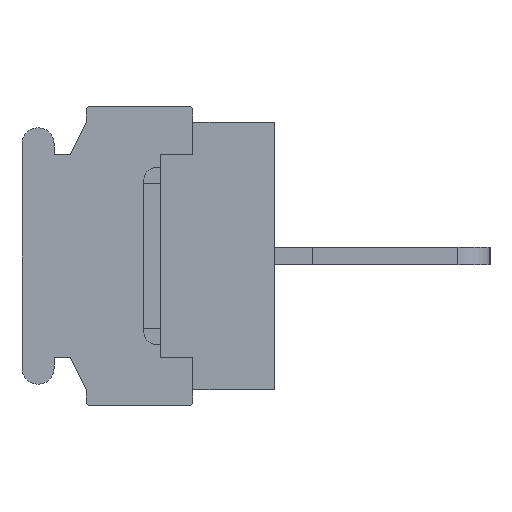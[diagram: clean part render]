
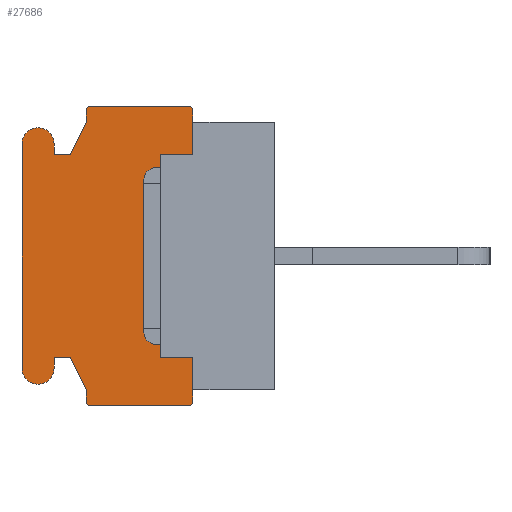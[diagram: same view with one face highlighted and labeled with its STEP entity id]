
A CAD part, left-side view. The second image highlights one B-rep face of the part: STEP entity #27686.
In plain terms, the highlighted planar face has unit normal (-1, 0, 0).
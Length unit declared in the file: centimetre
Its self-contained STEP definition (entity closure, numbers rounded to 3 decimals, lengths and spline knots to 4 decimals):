
#1582=PLANE('',#45095);
#2331=VECTOR('',#29077,1.);
#4234=VECTOR('',#33197,1.);
#4235=VECTOR('',#33198,1.);
#4236=VECTOR('',#33201,1.);
#4237=VECTOR('',#33204,1.);
#4238=VECTOR('',#33205,1.);
#4239=VECTOR('',#33206,1.);
#4240=VECTOR('',#33207,1.);
#4241=VECTOR('',#33210,1.);
#4242=VECTOR('',#33213,1.);
#4243=VECTOR('',#33214,1.);
#4244=VECTOR('',#33215,1.);
#4245=VECTOR('',#33216,1.);
#4246=VECTOR('',#33219,1.);
#4247=VECTOR('',#33222,1.);
#4248=VECTOR('',#33223,1.);
#4249=VECTOR('',#33224,1.);
#4250=VECTOR('',#33225,1.);
#5279=LINE('',#35961,#2331);
#7182=LINE('',#41722,#4234);
#7183=LINE('',#41724,#4235);
#7184=LINE('',#41728,#4236);
#7185=LINE('',#41732,#4237);
#7186=LINE('',#41734,#4238);
#7187=LINE('',#41736,#4239);
#7188=LINE('',#41738,#4240);
#7189=LINE('',#41742,#4241);
#7190=LINE('',#41746,#4242);
#7191=LINE('',#41748,#4243);
#7192=LINE('',#41750,#4244);
#7193=LINE('',#41752,#4245);
#7194=LINE('',#41756,#4246);
#7195=LINE('',#41760,#4247);
#7196=LINE('',#41761,#4248);
#7197=LINE('',#41763,#4249);
#7198=LINE('',#41764,#4250);
#8166=VERTEX_POINT('',#35962);
#8167=VERTEX_POINT('',#35963);
#8278=VERTEX_POINT('',#36269);
#8331=VERTEX_POINT('',#36380);
#9948=VERTEX_POINT('',#41723);
#9949=VERTEX_POINT('',#41725);
#9950=VERTEX_POINT('',#41727);
#9951=VERTEX_POINT('',#41729);
#9952=VERTEX_POINT('',#41731);
#9953=VERTEX_POINT('',#41733);
#9954=VERTEX_POINT('',#41735);
#9955=VERTEX_POINT('',#41737);
#9956=VERTEX_POINT('',#41739);
#9957=VERTEX_POINT('',#41741);
#9958=VERTEX_POINT('',#41743);
#9959=VERTEX_POINT('',#41745);
#9960=VERTEX_POINT('',#41747);
#9961=VERTEX_POINT('',#41749);
#9962=VERTEX_POINT('',#41751);
#9963=VERTEX_POINT('',#41753);
#9964=VERTEX_POINT('',#41755);
#9965=VERTEX_POINT('',#41757);
#9966=VERTEX_POINT('',#41759);
#9967=VERTEX_POINT('',#41762);
#10876=CIRCLE('',#45096,0.02);
#10877=CIRCLE('',#45097,0.02);
#10878=CIRCLE('',#45098,0.075);
#10879=CIRCLE('',#45099,0.075);
#10880=CIRCLE('',#45100,0.02);
#10881=CIRCLE('',#45101,0.02);
#11684=EDGE_CURVE('',#8166,#8167,#5279,.T.);
#14375=EDGE_CURVE('',#9948,#8278,#7182,.T.);
#14376=EDGE_CURVE('',#9949,#8278,#7183,.T.);
#14377=EDGE_CURVE('',#9950,#9949,#10876,.T.);
#14378=EDGE_CURVE('',#9951,#9950,#7184,.T.);
#14379=EDGE_CURVE('',#9952,#9951,#10877,.T.);
#14380=EDGE_CURVE('',#9953,#9952,#7185,.T.);
#14381=EDGE_CURVE('',#9954,#9953,#7186,.T.);
#14382=EDGE_CURVE('',#9955,#9954,#7187,.T.);
#14383=EDGE_CURVE('',#9956,#9955,#7188,.T.);
#14384=EDGE_CURVE('',#9957,#9956,#10878,.T.);
#14385=EDGE_CURVE('',#9958,#9957,#7189,.T.);
#14386=EDGE_CURVE('',#9959,#9958,#10879,.T.);
#14387=EDGE_CURVE('',#9960,#9959,#7190,.T.);
#14388=EDGE_CURVE('',#9961,#9960,#7191,.T.);
#14389=EDGE_CURVE('',#9962,#9961,#7192,.T.);
#14390=EDGE_CURVE('',#9963,#9962,#7193,.T.);
#14391=EDGE_CURVE('',#9964,#9963,#10880,.T.);
#14392=EDGE_CURVE('',#9965,#9964,#7194,.T.);
#14393=EDGE_CURVE('',#9966,#9965,#10881,.T.);
#14394=EDGE_CURVE('',#8331,#9966,#7195,.T.);
#14395=EDGE_CURVE('',#8331,#9967,#7196,.T.);
#14396=EDGE_CURVE('',#9967,#8166,#7197,.T.);
#14397=EDGE_CURVE('',#8167,#9948,#7198,.T.);
#21881=ORIENTED_EDGE('',*,*,#14375,.T.);
#21882=ORIENTED_EDGE('',*,*,#14376,.F.);
#21883=ORIENTED_EDGE('',*,*,#14377,.F.);
#21884=ORIENTED_EDGE('',*,*,#14378,.F.);
#21885=ORIENTED_EDGE('',*,*,#14379,.F.);
#21886=ORIENTED_EDGE('',*,*,#14380,.F.);
#21887=ORIENTED_EDGE('',*,*,#14381,.F.);
#21888=ORIENTED_EDGE('',*,*,#14382,.F.);
#21889=ORIENTED_EDGE('',*,*,#14383,.F.);
#21890=ORIENTED_EDGE('',*,*,#14384,.F.);
#21891=ORIENTED_EDGE('',*,*,#14385,.F.);
#21892=ORIENTED_EDGE('',*,*,#14386,.F.);
#21893=ORIENTED_EDGE('',*,*,#14387,.F.);
#21894=ORIENTED_EDGE('',*,*,#14388,.F.);
#21895=ORIENTED_EDGE('',*,*,#14389,.F.);
#21896=ORIENTED_EDGE('',*,*,#14390,.F.);
#21897=ORIENTED_EDGE('',*,*,#14391,.F.);
#21898=ORIENTED_EDGE('',*,*,#14392,.F.);
#21899=ORIENTED_EDGE('',*,*,#14393,.F.);
#21900=ORIENTED_EDGE('',*,*,#14394,.F.);
#21901=ORIENTED_EDGE('',*,*,#14395,.T.);
#21902=ORIENTED_EDGE('',*,*,#14396,.T.);
#21903=ORIENTED_EDGE('',*,*,#11684,.T.);
#21904=ORIENTED_EDGE('',*,*,#14397,.T.);
#24484=EDGE_LOOP('',(#21881,#21882,#21883,#21884,#21885,#21886,#21887,#21888,
#21889,#21890,#21891,#21892,#21893,#21894,#21895,#21896,#21897,#21898,#21899,
#21900,#21901,#21902,#21903,#21904));
#26162=FACE_BOUND('',#24484,.T.);
#27686=ADVANCED_FACE('',(#26162),#1582,.F.);
#29077=DIRECTION('',(0.,0.,1.));
#33196=DIRECTION('',(1.,0.,0.));
#33197=DIRECTION('',(0.,0.,1.));
#33198=DIRECTION('',(0.,0.,-1.));
#33199=DIRECTION('',(1.,0.,0.));
#33200=DIRECTION('',(0.,0.,-0.02));
#33201=DIRECTION('',(0.,-1.,0.));
#33202=DIRECTION('',(1.,0.,0.));
#33203=DIRECTION('',(0.,0.,-0.02));
#33204=DIRECTION('',(0.,0.,1.));
#33205=DIRECTION('',(0.,-0.447,0.894));
#33206=DIRECTION('',(0.,-1.,0.));
#33207=DIRECTION('',(0.,0.,-1.));
#33208=DIRECTION('',(1.,0.,0.));
#33209=DIRECTION('',(0.,0.,-0.075));
#33210=DIRECTION('',(0.,0.,1.));
#33211=DIRECTION('',(1.,0.,0.));
#33212=DIRECTION('',(0.,0.,-0.075));
#33213=DIRECTION('',(0.,0.,-1.));
#33214=DIRECTION('',(0.,1.,0.));
#33215=DIRECTION('',(0.,0.447,0.894));
#33216=DIRECTION('',(0.,0.,1.));
#33217=DIRECTION('',(1.,0.,0.));
#33218=DIRECTION('',(0.,0.,-0.02));
#33219=DIRECTION('',(0.,1.,0.));
#33220=DIRECTION('',(1.,0.,0.));
#33221=DIRECTION('',(0.,0.,-0.02));
#33222=DIRECTION('',(0.,0.,-1.));
#33223=DIRECTION('',(0.,0.,1.));
#33224=DIRECTION('',(0.,1.,0.));
#33225=DIRECTION('',(0.,-1.,0.));
#35961=CARTESIAN_POINT('',(-0.762,0.53,0.));
#35962=CARTESIAN_POINT('',(-0.762,0.53,-0.475));
#35963=CARTESIAN_POINT('',(-0.762,0.53,0.475));
#36269=CARTESIAN_POINT('',(-0.762,0.38,0.625));
#36380=CARTESIAN_POINT('',(-0.762,0.38,-0.625));
#41721=CARTESIAN_POINT('',(-0.762,0.6059,0.));
#41722=CARTESIAN_POINT('',(-0.762,0.38,0.275));
#41723=CARTESIAN_POINT('',(-0.762,0.38,0.475));
#41724=CARTESIAN_POINT('',(-0.762,0.38,0.68));
#41725=CARTESIAN_POINT('',(-0.762,0.38,0.68));
#41726=CARTESIAN_POINT('',(-0.762,0.4,0.68));
#41727=CARTESIAN_POINT('',(-0.762,0.4,0.7));
#41728=CARTESIAN_POINT('',(-0.762,0.86,0.7));
#41729=CARTESIAN_POINT('',(-0.762,0.86,0.7));
#41730=CARTESIAN_POINT('',(-0.762,0.86,0.68));
#41731=CARTESIAN_POINT('',(-0.762,0.88,0.68));
#41732=CARTESIAN_POINT('',(-0.762,0.88,0.625));
#41733=CARTESIAN_POINT('',(-0.762,0.88,0.625));
#41734=CARTESIAN_POINT('',(-0.762,0.955,0.475));
#41735=CARTESIAN_POINT('',(-0.762,0.955,0.475));
#41736=CARTESIAN_POINT('',(-0.762,1.03,0.475));
#41737=CARTESIAN_POINT('',(-0.762,1.03,0.475));
#41738=CARTESIAN_POINT('',(-0.762,1.03,0.525));
#41739=CARTESIAN_POINT('',(-0.762,1.03,0.525));
#41740=CARTESIAN_POINT('',(-0.762,1.105,0.525));
#41741=CARTESIAN_POINT('',(-0.762,1.18,0.525));
#41742=CARTESIAN_POINT('',(-0.762,1.18,-0.525));
#41743=CARTESIAN_POINT('',(-0.762,1.18,-0.525));
#41744=CARTESIAN_POINT('',(-0.762,1.105,-0.525));
#41745=CARTESIAN_POINT('',(-0.762,1.03,-0.525));
#41746=CARTESIAN_POINT('',(-0.762,1.03,-0.475));
#41747=CARTESIAN_POINT('',(-0.762,1.03,-0.475));
#41748=CARTESIAN_POINT('',(-0.762,0.955,-0.475));
#41749=CARTESIAN_POINT('',(-0.762,0.955,-0.475));
#41750=CARTESIAN_POINT('',(-0.762,0.88,-0.625));
#41751=CARTESIAN_POINT('',(-0.762,0.88,-0.625));
#41752=CARTESIAN_POINT('',(-0.762,0.88,-0.68));
#41753=CARTESIAN_POINT('',(-0.762,0.88,-0.68));
#41754=CARTESIAN_POINT('',(-0.762,0.86,-0.68));
#41755=CARTESIAN_POINT('',(-0.762,0.86,-0.7));
#41756=CARTESIAN_POINT('',(-0.762,0.4,-0.7));
#41757=CARTESIAN_POINT('',(-0.762,0.4,-0.7));
#41758=CARTESIAN_POINT('',(-0.762,0.4,-0.68));
#41759=CARTESIAN_POINT('',(-0.762,0.38,-0.68));
#41760=CARTESIAN_POINT('',(-0.762,0.38,-0.625));
#41761=CARTESIAN_POINT('',(-0.762,0.38,-0.275));
#41762=CARTESIAN_POINT('',(-0.762,0.38,-0.475));
#41763=CARTESIAN_POINT('',(-0.762,0.5304,-0.475));
#41764=CARTESIAN_POINT('',(-0.762,0.5304,0.475));
#45095=AXIS2_PLACEMENT_3D('',#41721,#33196,$);
#45096=AXIS2_PLACEMENT_3D('',#41726,#33199,#33200);
#45097=AXIS2_PLACEMENT_3D('',#41730,#33202,#33203);
#45098=AXIS2_PLACEMENT_3D('',#41740,#33208,#33209);
#45099=AXIS2_PLACEMENT_3D('',#41744,#33211,#33212);
#45100=AXIS2_PLACEMENT_3D('',#41754,#33217,#33218);
#45101=AXIS2_PLACEMENT_3D('',#41758,#33220,#33221);
